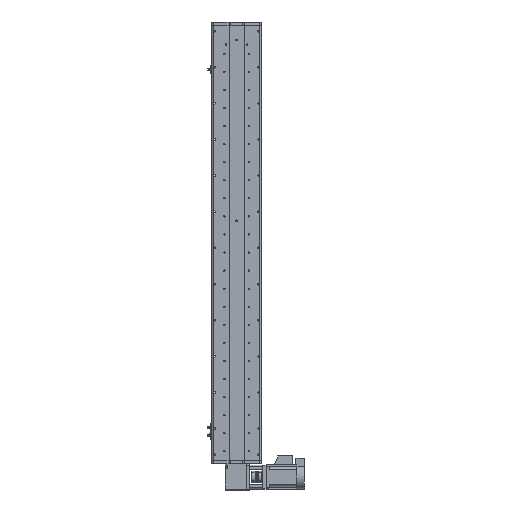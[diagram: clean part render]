
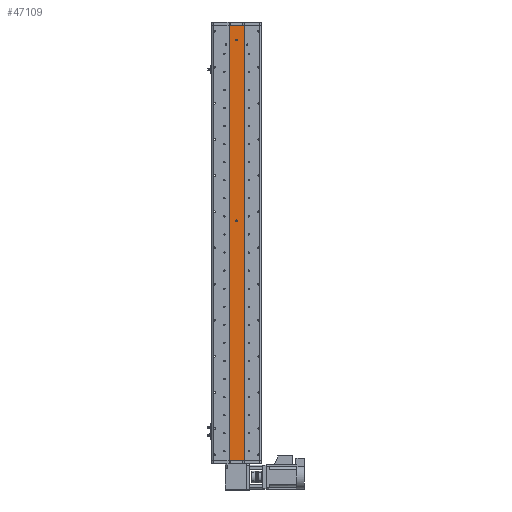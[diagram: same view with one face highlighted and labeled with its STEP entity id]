
A CAD part, front view. The second image highlights one B-rep face of the part: STEP entity #47109.
In plain terms, the highlighted planar face has unit normal (0, -1, 0).
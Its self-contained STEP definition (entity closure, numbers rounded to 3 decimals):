
#141 = EDGE_CURVE ( 'NONE', #25918, #36851, #19929, .T. ) ;
#2373 = VECTOR ( 'NONE', #33961, 1000. ) ;
#3382 = CARTESIAN_POINT ( 'NONE',  ( -25., 1., 723.5 ) ) ;
#3685 = FACE_BOUND ( 'NONE', #10438, .T. ) ;
#4450 = CARTESIAN_POINT ( 'NONE',  ( 0., 1., 670.5 ) ) ;
#4496 = EDGE_CURVE ( 'NONE', #42287, #11982, #15282, .T. ) ;
#4517 = CARTESIAN_POINT ( 'NONE',  ( 25., 1., -723.5 ) ) ;
#4613 = CARTESIAN_POINT ( 'NONE',  ( 0., 1., 676.5 ) ) ;
#4615 = LINE ( 'NONE', #43580, #25636 ) ;
#4654 = ORIENTED_EDGE ( 'NONE', *, *, #43269, .F. ) ;
#5084 = DIRECTION ( 'NONE',  ( 1., 0., 0. ) ) ;
#8129 = DIRECTION ( 'NONE',  ( 0., -1., 0. ) ) ;
#8236 = DIRECTION ( 'NONE',  ( 0., -1., 0. ) ) ;
#8890 = ORIENTED_EDGE ( 'NONE', *, *, #36298, .F. ) ;
#10108 = ORIENTED_EDGE ( 'NONE', *, *, #30885, .T. ) ;
#10284 = CARTESIAN_POINT ( 'NONE',  ( 0., 1., 76.5 ) ) ;
#10438 = EDGE_LOOP ( 'NONE', ( #26369, #21252 ) ) ;
#10895 = PLANE ( 'NONE',  #37976 ) ;
#11982 = VERTEX_POINT ( 'NONE', #4613 ) ;
#12645 = CIRCLE ( 'NONE', #24380, 3. ) ;
#14391 = VECTOR ( 'NONE', #5084, 1000. ) ;
#14462 = VERTEX_POINT ( 'NONE', #18208 ) ;
#14915 = DIRECTION ( 'NONE',  ( 0., 1., 0. ) ) ;
#15282 = CIRCLE ( 'NONE', #34916, 3. ) ;
#15390 = VERTEX_POINT ( 'NONE', #41898 ) ;
#15672 = ORIENTED_EDGE ( 'NONE', *, *, #28214, .F. ) ;
#16178 = DIRECTION ( 'NONE',  ( 0., -1., 0. ) ) ;
#16682 = DIRECTION ( 'NONE',  ( 0., 0., -1. ) ) ;
#17009 = CARTESIAN_POINT ( 'NONE',  ( 0., 1., 73.5 ) ) ;
#18111 = CARTESIAN_POINT ( 'NONE',  ( 25., 1., 723.5 ) ) ;
#18208 = CARTESIAN_POINT ( 'NONE',  ( -25., 1., -723.5 ) ) ;
#18343 = EDGE_CURVE ( 'NONE', #36851, #25918, #12645, .T. ) ;
#18547 = AXIS2_PLACEMENT_3D ( 'NONE', #17009, #16178, #16682 ) ;
#18836 = VECTOR ( 'NONE', #36091, 1000. ) ;
#19415 = VERTEX_POINT ( 'NONE', #3382 ) ;
#19929 = CIRCLE ( 'NONE', #18547, 3. ) ;
#20025 = ORIENTED_EDGE ( 'NONE', *, *, #4496, .F. ) ;
#21252 = ORIENTED_EDGE ( 'NONE', *, *, #18343, .F. ) ;
#22215 = FACE_OUTER_BOUND ( 'NONE', #44081, .T. ) ;
#23364 = LINE ( 'NONE', #18111, #2373 ) ;
#24380 = AXIS2_PLACEMENT_3D ( 'NONE', #31800, #8129, #35757 ) ;
#25085 = EDGE_LOOP ( 'NONE', ( #20025, #15672 ) ) ;
#25636 = VECTOR ( 'NONE', #39635, 1000. ) ;
#25918 = VERTEX_POINT ( 'NONE', #28958 ) ;
#26369 = ORIENTED_EDGE ( 'NONE', *, *, #141, .F. ) ;
#27335 = LINE ( 'NONE', #40408, #14391 ) ;
#28214 = EDGE_CURVE ( 'NONE', #11982, #42287, #33109, .T. ) ;
#28958 = CARTESIAN_POINT ( 'NONE',  ( 0., 1., 70.5 ) ) ;
#30562 = LINE ( 'NONE', #4517, #18836 ) ;
#30885 = EDGE_CURVE ( 'NONE', #14462, #48778, #30562, .T. ) ;
#31800 = CARTESIAN_POINT ( 'NONE',  ( 0., 1., 73.5 ) ) ;
#31901 = CARTESIAN_POINT ( 'NONE',  ( 0., 1., 673.5 ) ) ;
#32676 = FACE_BOUND ( 'NONE', #25085, .T. ) ;
#33109 = CIRCLE ( 'NONE', #35722, 3. ) ;
#33961 = DIRECTION ( 'NONE',  ( 0., 0., -1. ) ) ;
#34916 = AXIS2_PLACEMENT_3D ( 'NONE', #50197, #50271, #50087 ) ;
#35722 = AXIS2_PLACEMENT_3D ( 'NONE', #31901, #8236, #35852 ) ;
#35757 = DIRECTION ( 'NONE',  ( 0., 0., -1. ) ) ;
#35852 = DIRECTION ( 'NONE',  ( 0., 0., -1. ) ) ;
#36091 = DIRECTION ( 'NONE',  ( 1., 0., 0. ) ) ;
#36298 = EDGE_CURVE ( 'NONE', #15390, #48778, #23364, .T. ) ;
#36851 = VERTEX_POINT ( 'NONE', #10284 ) ;
#36966 = CARTESIAN_POINT ( 'NONE',  ( 25., 1., -723.5 ) ) ;
#37976 = AXIS2_PLACEMENT_3D ( 'NONE', #46194, #14915, #42384 ) ;
#39635 = DIRECTION ( 'NONE',  ( 0., 0., -1. ) ) ;
#40408 = CARTESIAN_POINT ( 'NONE',  ( 25., 1., 723.5 ) ) ;
#41898 = CARTESIAN_POINT ( 'NONE',  ( 25., 1., 723.5 ) ) ;
#42287 = VERTEX_POINT ( 'NONE', #4450 ) ;
#42384 = DIRECTION ( 'NONE',  ( 0., 0., 1. ) ) ;
#42611 = ORIENTED_EDGE ( 'NONE', *, *, #44203, .T. ) ;
#43269 = EDGE_CURVE ( 'NONE', #19415, #15390, #27335, .T. ) ;
#43580 = CARTESIAN_POINT ( 'NONE',  ( -25., 1., 723.5 ) ) ;
#44081 = EDGE_LOOP ( 'NONE', ( #10108, #8890, #4654, #42611 ) ) ;
#44203 = EDGE_CURVE ( 'NONE', #19415, #14462, #4615, .T. ) ;
#46194 = CARTESIAN_POINT ( 'NONE',  ( 25., 1., 723.5 ) ) ;
#47109 = ADVANCED_FACE ( 'NONE', ( #3685, #32676, #22215 ), #10895, .F. ) ;
#48778 = VERTEX_POINT ( 'NONE', #36966 ) ;
#50087 = DIRECTION ( 'NONE',  ( 0., 0., -1. ) ) ;
#50197 = CARTESIAN_POINT ( 'NONE',  ( 0., 1., 673.5 ) ) ;
#50271 = DIRECTION ( 'NONE',  ( 0., -1., 0. ) ) ;
